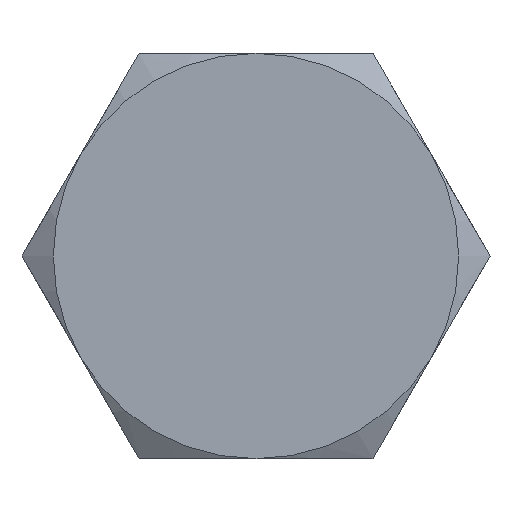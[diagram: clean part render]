
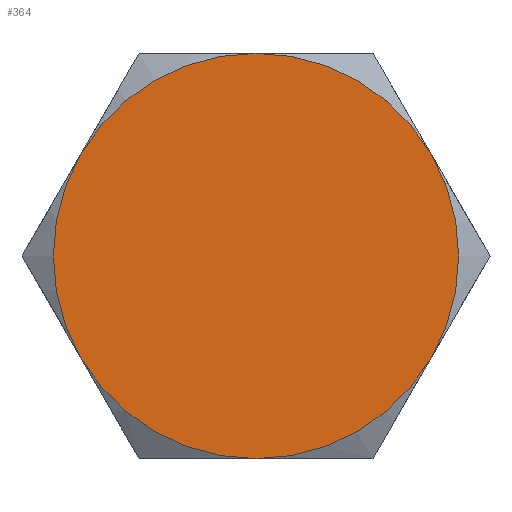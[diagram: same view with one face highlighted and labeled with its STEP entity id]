
A CAD part, left-side view. The second image highlights one B-rep face of the part: STEP entity #364.
In plain terms, the highlighted planar face has unit normal (-1, 0, 0).
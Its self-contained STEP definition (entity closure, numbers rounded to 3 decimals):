
#88=PLANE('',#416);
#109=FACE_OUTER_BOUND('',#131,.T.);
#131=EDGE_LOOP('',(#320,#321,#322,#323,#324,#325));
#175=CIRCLE('',#397,6.5);
#176=CIRCLE('',#399,6.5);
#177=CIRCLE('',#401,6.5);
#178=CIRCLE('',#403,6.5);
#179=CIRCLE('',#405,6.5);
#180=CIRCLE('',#407,6.5);
#189=VERTEX_POINT('',#528);
#191=VERTEX_POINT('',#533);
#193=VERTEX_POINT('',#540);
#194=VERTEX_POINT('',#549);
#197=VERTEX_POINT('',#560);
#198=VERTEX_POINT('',#569);
#218=EDGE_CURVE('',#191,#189,#175,.T.);
#222=EDGE_CURVE('',#193,#191,#176,.T.);
#224=EDGE_CURVE('',#189,#194,#177,.T.);
#228=EDGE_CURVE('',#197,#193,#178,.T.);
#230=EDGE_CURVE('',#194,#198,#179,.T.);
#234=EDGE_CURVE('',#198,#197,#180,.T.);
#320=ORIENTED_EDGE('',*,*,#218,.T.);
#321=ORIENTED_EDGE('',*,*,#224,.T.);
#322=ORIENTED_EDGE('',*,*,#230,.T.);
#323=ORIENTED_EDGE('',*,*,#234,.T.);
#324=ORIENTED_EDGE('',*,*,#228,.T.);
#325=ORIENTED_EDGE('',*,*,#222,.T.);
#364=ADVANCED_FACE('',(#109),#88,.F.);
#397=AXIS2_PLACEMENT_3D('',#534,#444,#445);
#399=AXIS2_PLACEMENT_3D('',#547,#448,#449);
#401=AXIS2_PLACEMENT_3D('',#554,#452,#453);
#403=AXIS2_PLACEMENT_3D('',#567,#456,#457);
#405=AXIS2_PLACEMENT_3D('',#574,#460,#461);
#407=AXIS2_PLACEMENT_3D('',#586,#464,#465);
#416=AXIS2_PLACEMENT_3D('',#614,#494,#495);
#444=DIRECTION('center_axis',(-1.,0.,0.));
#445=DIRECTION('ref_axis',(0.,1.,0.));
#448=DIRECTION('center_axis',(-1.,0.,0.));
#449=DIRECTION('ref_axis',(0.,1.,0.));
#452=DIRECTION('center_axis',(-1.,0.,0.));
#453=DIRECTION('ref_axis',(0.,1.,0.));
#456=DIRECTION('center_axis',(-1.,0.,0.));
#457=DIRECTION('ref_axis',(0.,1.,0.));
#460=DIRECTION('center_axis',(-1.,0.,0.));
#461=DIRECTION('ref_axis',(0.,1.,0.));
#464=DIRECTION('center_axis',(-1.,0.,0.));
#465=DIRECTION('ref_axis',(0.,1.,0.));
#494=DIRECTION('center_axis',(1.,0.,0.));
#495=DIRECTION('ref_axis',(0.,0.,-1.));
#528=CARTESIAN_POINT('',(-5.3,5.629,3.25));
#533=CARTESIAN_POINT('',(-5.3,0.,6.5));
#534=CARTESIAN_POINT('Origin',(-5.3,0.,0.));
#540=CARTESIAN_POINT('',(-5.3,-5.629,3.25));
#547=CARTESIAN_POINT('Origin',(-5.3,0.,0.));
#549=CARTESIAN_POINT('',(-5.3,5.629,-3.25));
#554=CARTESIAN_POINT('Origin',(-5.3,0.,0.));
#560=CARTESIAN_POINT('',(-5.3,-5.629,-3.25));
#567=CARTESIAN_POINT('Origin',(-5.3,0.,0.));
#569=CARTESIAN_POINT('',(-5.3,0.,-6.5));
#574=CARTESIAN_POINT('Origin',(-5.3,0.,0.));
#586=CARTESIAN_POINT('Origin',(-5.3,0.,0.));
#614=CARTESIAN_POINT('Origin',(-5.3,0.,
0.));
